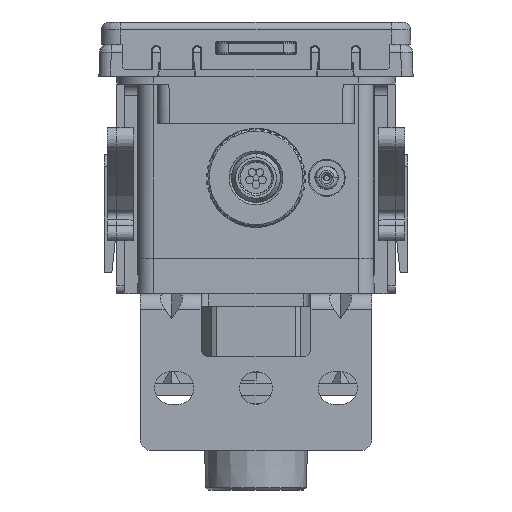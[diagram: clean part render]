
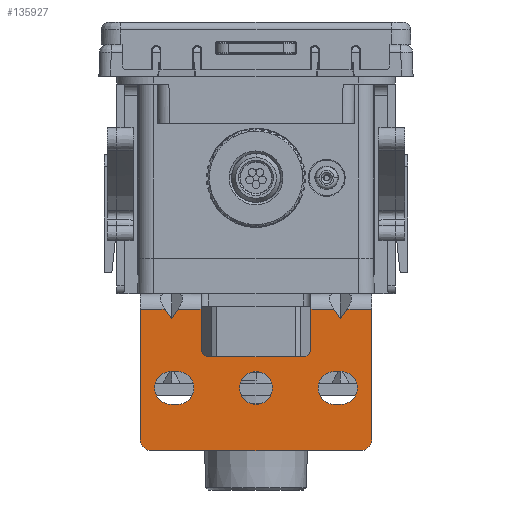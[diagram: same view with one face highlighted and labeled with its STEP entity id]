
A CAD part, front view. The second image highlights one B-rep face of the part: STEP entity #135927.
In plain terms, the highlighted planar face has unit normal (0, -1, 0).
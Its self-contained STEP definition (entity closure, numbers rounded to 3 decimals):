
#126586=DIRECTION('',(0.,0.,1.));
#126587=VECTOR('',#126586,16.5);
#126588=CARTESIAN_POINT('',(14.75,-40.25,-18.5));
#126589=LINE('',#126588,#126587);
#126602=DIRECTION('',(0.577,0.,0.816));
#126603=VECTOR('',#126602,1.434);
#126604=CARTESIAN_POINT('',(10.75,-40.25,-3.171));
#126605=LINE('',#126604,#126603);
#126614=DIRECTION('',(-1.,0.,0.));
#126615=VECTOR('',#126614,12.);
#126616=CARTESIAN_POINT('',(6.,-40.25,-8.));
#126617=LINE('',#126616,#126615);
#126618=DIRECTION('',(0.,0.,-1.));
#126619=VECTOR('',#126618,5.);
#126620=CARTESIAN_POINT('',(7.,-40.25,-2.));
#126621=LINE('',#126620,#126619);
#126622=DIRECTION('',(1.,0.,0.));
#126623=VECTOR('',#126622,2.922);
#126624=CARTESIAN_POINT('',(7.,-40.25,-2.));
#126625=LINE('',#126624,#126623);
#126626=DIRECTION('',(1.,0.,0.));
#126627=VECTOR('',#126626,3.172);
#126628=CARTESIAN_POINT('',(11.578,-40.25,-2.));
#126629=LINE('',#126628,#126627);
#126630=CARTESIAN_POINT('',(13.25,-40.25,-18.5));
#126631=DIRECTION('',(0.,-1.,0.));
#126632=DIRECTION('',(0.,0.,-1.));
#126633=AXIS2_PLACEMENT_3D('',#126630,#126631,#126632);
#126635=DIRECTION('',(-1.,0.,0.));
#126636=VECTOR('',#126635,26.5);
#126637=CARTESIAN_POINT('',(13.25,-40.25,-20.));
#126638=LINE('',#126637,#126636);
#126639=CARTESIAN_POINT('',(-13.25,-40.25,-18.5));
#126640=DIRECTION('',(0.,-1.,0.));
#126641=DIRECTION('',(-1.,0.,0.));
#126642=AXIS2_PLACEMENT_3D('',#126639,#126640,#126641);
#126644=DIRECTION('',(1.,0.,0.));
#126645=VECTOR('',#126644,3.172);
#126646=CARTESIAN_POINT('',(-14.75,-40.25,-2.));
#126647=LINE('',#126646,#126645);
#126648=DIRECTION('',(1.,0.,0.));
#126649=VECTOR('',#126648,2.922);
#126650=CARTESIAN_POINT('',(-9.922,-40.25,-2.));
#126651=LINE('',#126650,#126649);
#126652=DIRECTION('',(0.,0.,-1.));
#126653=VECTOR('',#126652,5.);
#126654=CARTESIAN_POINT('',(-7.,-40.25,-2.));
#126655=LINE('',#126654,#126653);
#126656=CARTESIAN_POINT('',(0.,-40.25,-12.));
#126657=DIRECTION('',(0.,1.,0.));
#126658=DIRECTION('',(-1.,0.,0.));
#126659=AXIS2_PLACEMENT_3D('',#126656,#126657,#126658);
#126661=CARTESIAN_POINT('',(0.,-40.25,-12.));
#126662=DIRECTION('',(0.,1.,0.));
#126663=DIRECTION('',(1.,0.,0.));
#126664=AXIS2_PLACEMENT_3D('',#126661,#126662,#126663);
#126666=CARTESIAN_POINT('',(10.8,-40.25,-12.));
#126667=DIRECTION('',(0.,1.,0.));
#126668=DIRECTION('',(0.,0.,1.));
#126669=AXIS2_PLACEMENT_3D('',#126666,#126667,#126668);
#126671=DIRECTION('',(1.,0.,0.));
#126672=VECTOR('',#126671,0.8);
#126673=CARTESIAN_POINT('',(10.,-40.25,-9.9));
#126674=LINE('',#126673,#126672);
#126675=CARTESIAN_POINT('',(10.,-40.25,-12.));
#126676=DIRECTION('',(0.,1.,0.));
#126677=DIRECTION('',(0.,0.,-1.));
#126678=AXIS2_PLACEMENT_3D('',#126675,#126676,#126677);
#126680=DIRECTION('',(-1.,0.,0.));
#126681=VECTOR('',#126680,0.8);
#126682=CARTESIAN_POINT('',(10.8,-40.25,-14.1));
#126683=LINE('',#126682,#126681);
#126684=DIRECTION('',(1.,0.,0.));
#126685=VECTOR('',#126684,0.8);
#126686=CARTESIAN_POINT('',(-10.8,-40.25,-9.9));
#126687=LINE('',#126686,#126685);
#126688=CARTESIAN_POINT('',(-10.8,-40.25,-12.));
#126689=DIRECTION('',(0.,1.,0.));
#126690=DIRECTION('',(0.,0.,-1.));
#126691=AXIS2_PLACEMENT_3D('',#126688,#126689,#126690);
#126693=DIRECTION('',(-1.,0.,0.));
#126694=VECTOR('',#126693,0.8);
#126695=CARTESIAN_POINT('',(-10.,-40.25,-14.1));
#126696=LINE('',#126695,#126694);
#126697=CARTESIAN_POINT('',(-10.,-40.25,-12.));
#126698=DIRECTION('',(0.,1.,0.));
#126699=DIRECTION('',(0.,0.,1.));
#126700=AXIS2_PLACEMENT_3D('',#126697,#126698,#126699);
#126715=CARTESIAN_POINT('',(-6.,-40.25,-7.));
#126716=DIRECTION('',(0.,1.,0.));
#126717=DIRECTION('',(0.,0.,-1.));
#126718=AXIS2_PLACEMENT_3D('',#126715,#126716,#126717);
#126745=DIRECTION('',(0.577,0.,0.816));
#126746=VECTOR('',#126745,1.434);
#126747=CARTESIAN_POINT('',(-10.75,-40.25,-3.171));
#126748=LINE('',#126747,#126746);
#126761=DIRECTION('',(-0.577,0.,0.816));
#126762=VECTOR('',#126761,1.434);
#126763=CARTESIAN_POINT('',(-10.75,-40.25,-3.171));
#126764=LINE('',#126763,#126762);
#126887=CARTESIAN_POINT('',(6.,-40.25,-7.));
#126888=DIRECTION('',(0.,1.,0.));
#126889=DIRECTION('',(1.,0.,0.));
#126890=AXIS2_PLACEMENT_3D('',#126887,#126888,#126889);
#127152=DIRECTION('',(0.,0.,1.));
#127153=VECTOR('',#127152,16.5);
#127154=CARTESIAN_POINT('',(-14.75,-40.25,-18.5));
#127155=LINE('',#127154,#127153);
#134233=DIRECTION('',(-0.577,0.,0.816));
#134234=VECTOR('',#134233,1.434);
#134235=CARTESIAN_POINT('',(10.75,-40.25,-3.171));
#134236=LINE('',#134235,#134234);
#134401=CARTESIAN_POINT('',(-14.75,-40.25,-18.5));
#134402=CARTESIAN_POINT('',(-13.25,-40.25,-20.));
#134403=VERTEX_POINT('',#134401);
#134404=VERTEX_POINT('',#134402);
#134413=CARTESIAN_POINT('',(13.25,-40.25,-20.));
#134414=VERTEX_POINT('',#134413);
#134415=CARTESIAN_POINT('',(14.75,-40.25,-18.5));
#134416=VERTEX_POINT('',#134415);
#134430=CARTESIAN_POINT('',(14.75,-40.25,-2.));
#134432=VERTEX_POINT('',#134430);
#134433=CARTESIAN_POINT('',(-14.75,-40.25,-2.));
#134435=VERTEX_POINT('',#134433);
#134501=CARTESIAN_POINT('',(-10.75,-40.25,-3.171));
#134502=CARTESIAN_POINT('',(-9.922,-40.25,-2.));
#134503=VERTEX_POINT('',#134501);
#134504=VERTEX_POINT('',#134502);
#134509=CARTESIAN_POINT('',(-11.578,-40.25,-2.));
#134510=VERTEX_POINT('',#134509);
#134513=CARTESIAN_POINT('',(10.75,-40.25,-3.171));
#134514=CARTESIAN_POINT('',(9.922,-40.25,-2.));
#134515=VERTEX_POINT('',#134513);
#134516=VERTEX_POINT('',#134514);
#134521=CARTESIAN_POINT('',(11.578,-40.25,-2.));
#134522=VERTEX_POINT('',#134521);
#134526=CARTESIAN_POINT('',(-7.,-40.25,-2.));
#134528=VERTEX_POINT('',#134526);
#134530=CARTESIAN_POINT('',(7.,-40.25,-2.));
#134532=VERTEX_POINT('',#134530);
#134597=CARTESIAN_POINT('',(-2.1,-40.25,-12.));
#134598=CARTESIAN_POINT('',(2.1,-40.25,-12.));
#134599=VERTEX_POINT('',#134597);
#134600=VERTEX_POINT('',#134598);
#134601=CARTESIAN_POINT('',(10.8,-40.25,-9.9));
#134602=CARTESIAN_POINT('',(10.8,-40.25,-14.1));
#134603=VERTEX_POINT('',#134601);
#134604=VERTEX_POINT('',#134602);
#134605=CARTESIAN_POINT('',(10.,-40.25,-14.1));
#134606=VERTEX_POINT('',#134605);
#134607=CARTESIAN_POINT('',(10.,-40.25,-9.9));
#134608=VERTEX_POINT('',#134607);
#134609=CARTESIAN_POINT('',(-10.8,-40.25,-9.9));
#134610=CARTESIAN_POINT('',(-10.,-40.25,-9.9));
#134611=VERTEX_POINT('',#134609);
#134612=VERTEX_POINT('',#134610);
#134613=CARTESIAN_POINT('',(-10.,-40.25,-14.1));
#134614=VERTEX_POINT('',#134613);
#134615=CARTESIAN_POINT('',(-10.8,-40.25,-14.1));
#134616=VERTEX_POINT('',#134615);
#134618=CARTESIAN_POINT('',(-7.,-40.25,-7.));
#134620=VERTEX_POINT('',#134618);
#134622=CARTESIAN_POINT('',(-6.,-40.25,-8.));
#134624=VERTEX_POINT('',#134622);
#134625=CARTESIAN_POINT('',(7.,-40.25,-7.));
#134627=VERTEX_POINT('',#134625);
#134629=CARTESIAN_POINT('',(6.,-40.25,-8.));
#134631=VERTEX_POINT('',#134629);
#135861=CARTESIAN_POINT('',(14.75,-40.25,-20.));
#135862=DIRECTION('',(0.,-1.,0.));
#135863=DIRECTION('',(0.,0.,1.));
#135864=AXIS2_PLACEMENT_3D('',#135861,#135862,#135863);
#135865=PLANE('',#135864);
#135867=ORIENTED_EDGE('',*,*,#135866,.F.);
#135869=ORIENTED_EDGE('',*,*,#135868,.F.);
#135871=ORIENTED_EDGE('',*,*,#135870,.F.);
#135873=ORIENTED_EDGE('',*,*,#135872,.T.);
#135875=ORIENTED_EDGE('',*,*,#135874,.F.);
#135876=ORIENTED_EDGE('',*,*,#135852,.T.);
#135877=ORIENTED_EDGE('',*,*,#135841,.T.);
#135878=ORIENTED_EDGE('',*,*,#135826,.F.);
#135880=ORIENTED_EDGE('',*,*,#135879,.F.);
#135882=ORIENTED_EDGE('',*,*,#135881,.T.);
#135884=ORIENTED_EDGE('',*,*,#135883,.F.);
#135886=ORIENTED_EDGE('',*,*,#135885,.T.);
#135888=ORIENTED_EDGE('',*,*,#135887,.T.);
#135890=ORIENTED_EDGE('',*,*,#135889,.F.);
#135892=ORIENTED_EDGE('',*,*,#135891,.T.);
#135894=ORIENTED_EDGE('',*,*,#135893,.T.);
#135896=ORIENTED_EDGE('',*,*,#135895,.T.);
#135898=ORIENTED_EDGE('',*,*,#135897,.F.);
#135899=EDGE_LOOP('',(#135867,#135869,#135871,#135873,#135875,#135876,#135877,
#135878,#135880,#135882,#135884,#135886,#135888,#135890,#135892,#135894,#135896,
#135898));
#135900=FACE_OUTER_BOUND('',#135899,.F.);
#135902=ORIENTED_EDGE('',*,*,#135901,.F.);
#135904=ORIENTED_EDGE('',*,*,#135903,.F.);
#135905=EDGE_LOOP('',(#135902,#135904));
#135906=FACE_BOUND('',#135905,.F.);
#135908=ORIENTED_EDGE('',*,*,#135907,.F.);
#135910=ORIENTED_EDGE('',*,*,#135909,.F.);
#135912=ORIENTED_EDGE('',*,*,#135911,.F.);
#135914=ORIENTED_EDGE('',*,*,#135913,.F.);
#135915=EDGE_LOOP('',(#135908,#135910,#135912,#135914));
#135916=FACE_BOUND('',#135915,.F.);
#135918=ORIENTED_EDGE('',*,*,#135917,.F.);
#135920=ORIENTED_EDGE('',*,*,#135919,.F.);
#135922=ORIENTED_EDGE('',*,*,#135921,.F.);
#135924=ORIENTED_EDGE('',*,*,#135923,.F.);
#135925=EDGE_LOOP('',(#135918,#135920,#135922,#135924));
#135926=FACE_BOUND('',#135925,.F.);
#135927=ADVANCED_FACE('',(#135900,#135906,#135916,#135926),#135865,.T.);
#126634=CIRCLE('',#126633,1.5);
#126643=CIRCLE('',#126642,1.5);
#126660=CIRCLE('',#126659,2.1);
#126665=CIRCLE('',#126664,2.1);
#126670=CIRCLE('',#126669,2.1);
#126679=CIRCLE('',#126678,2.1);
#126692=CIRCLE('',#126691,2.1);
#126701=CIRCLE('',#126700,2.1);
#126719=CIRCLE('',#126718,1.);
#126891=CIRCLE('',#126890,1.);
#135826=EDGE_CURVE('',#134416,#134432,#126589,.T.);
#135841=EDGE_CURVE('',#134522,#134432,#126629,.T.);
#135852=EDGE_CURVE('',#134515,#134522,#126605,.T.);
#135866=EDGE_CURVE('',#134631,#134624,#126617,.T.);
#135868=EDGE_CURVE('',#134627,#134631,#126891,.T.);
#135870=EDGE_CURVE('',#134532,#134627,#126621,.T.);
#135872=EDGE_CURVE('',#134532,#134516,#126625,.T.);
#135874=EDGE_CURVE('',#134515,#134516,#134236,.T.);
#135879=EDGE_CURVE('',#134414,#134416,#126634,.T.);
#135881=EDGE_CURVE('',#134414,#134404,#126638,.T.);
#135883=EDGE_CURVE('',#134403,#134404,#126643,.T.);
#135885=EDGE_CURVE('',#134403,#134435,#127155,.T.);
#135887=EDGE_CURVE('',#134435,#134510,#126647,.T.);
#135889=EDGE_CURVE('',#134503,#134510,#126764,.T.);
#135891=EDGE_CURVE('',#134503,#134504,#126748,.T.);
#135893=EDGE_CURVE('',#134504,#134528,#126651,.T.);
#135895=EDGE_CURVE('',#134528,#134620,#126655,.T.);
#135897=EDGE_CURVE('',#134624,#134620,#126719,.T.);
#135901=EDGE_CURVE('',#134599,#134600,#126660,.T.);
#135903=EDGE_CURVE('',#134600,#134599,#126665,.T.);
#135907=EDGE_CURVE('',#134603,#134604,#126670,.T.);
#135909=EDGE_CURVE('',#134608,#134603,#126674,.T.);
#135911=EDGE_CURVE('',#134606,#134608,#126679,.T.);
#135913=EDGE_CURVE('',#134604,#134606,#126683,.T.);
#135917=EDGE_CURVE('',#134611,#134612,#126687,.T.);
#135919=EDGE_CURVE('',#134616,#134611,#126692,.T.);
#135921=EDGE_CURVE('',#134614,#134616,#126696,.T.);
#135923=EDGE_CURVE('',#134612,#134614,#126701,.T.);
